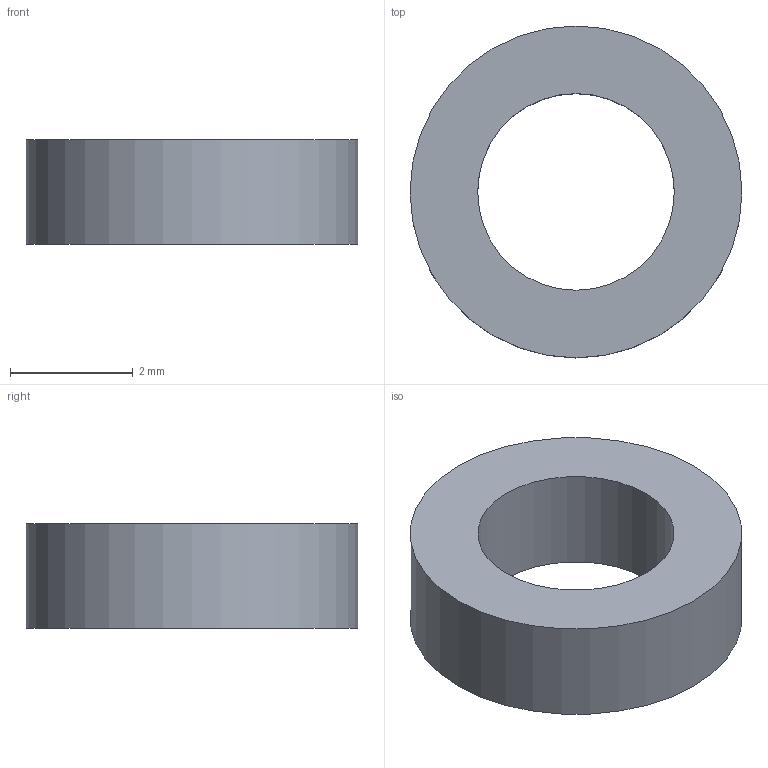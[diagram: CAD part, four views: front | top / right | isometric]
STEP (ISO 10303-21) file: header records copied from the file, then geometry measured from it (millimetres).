
FILE_DESCRIPTION(('Open CASCADE Model'),'2;1');
FILE_NAME('Open CASCADE Shape Model','2026-10-05T13:03:06',('Author'),( 'Open CASCADE'),'Open CASCADE STEP processor 7.9','Open CASCADE 7.9' ,'Unknown');
FILE_SCHEMA(('AUTOMOTIVE_DESIGN { 1 0 10303 214 1 1 1 1 }'));
Length unit declared in the file: millimetre
Products named in the file (1): Open CASCADE STEP translator 7.9 11
Bounding box: 5.4 x 5.4 x 1.7 mm (x, y, z)
Volume: 25.3 mm3; surface area: 75.6 mm2
Topology: 1 solids, 1 shells, 4 faces, 6 edges, 4 vertices
Faces by surface type: cylinder 2, plane 2
Full cylindrical faces by diameter (mm): 3.2 x1, 5.4 x1
Entity records: 186 total; most frequent: DIRECTION 32, CARTESIAN_POINT 27, ORIENTED_EDGE 12, PCURVE 12, DEFINITIONAL_REPRESENTATION 12, LINE 10, VECTOR 10, AXIS2_PLACEMENT_3D 9
